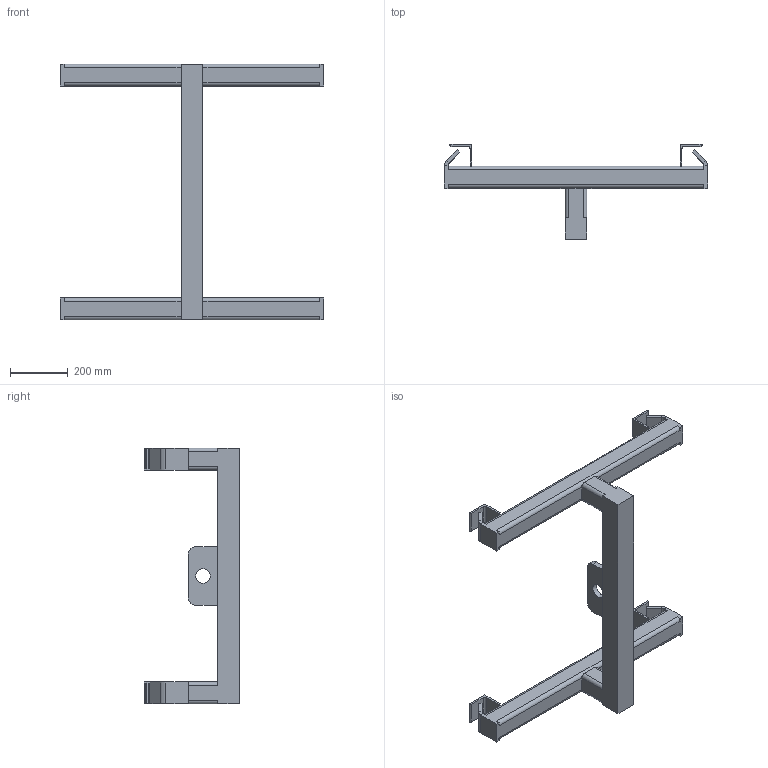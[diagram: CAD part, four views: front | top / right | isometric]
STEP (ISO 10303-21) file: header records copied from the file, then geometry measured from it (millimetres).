
FILE_DESCRIPTION(/* description */ ('Part > iProperties > Project > Description'),/* implementation_level */ '2;1');
FILE_NAME(/* name */ 'B:\Inventor Files\Parts\Adapters\CA-LH\BL100--CA-LH.stp',/* time_stamp */ '2018-11-16T11:43:30-06:00',/* author */ ('REKleeschulte'),/* organization */ (''),/* preprocessor_version */ 'ST-DEVELOPER v15.6',/* originating_system */ 'Autodesk Inventor 2015',/* authorisation */ '');
FILE_SCHEMA (('AUTOMOTIVE_DESIGN { 1 0 10303 214 3 1 1 }'));
Length unit declared in the file: inch
Products named in the file (1): Part8
Bounding box: 914.4 x 330.2 x 889 mm (x, y, z)
Volume: 9671858.5 mm3; surface area: 1567919.8 mm2
Topology: 1 solids, 3 shells, 194 faces, 493 edges, 302 vertices
Faces by surface type: plane 139, cylinder 55
Full cylindrical faces by diameter (mm): 50.8 x1
Entity records: 5957 total; most frequent: DIRECTION 992, CARTESIAN_POINT 989, ORIENTED_EDGE 984, EDGE_CURVE 492, LINE 382, VECTOR 382, AXIS2_PLACEMENT_3D 305, VERTEX_POINT 302
